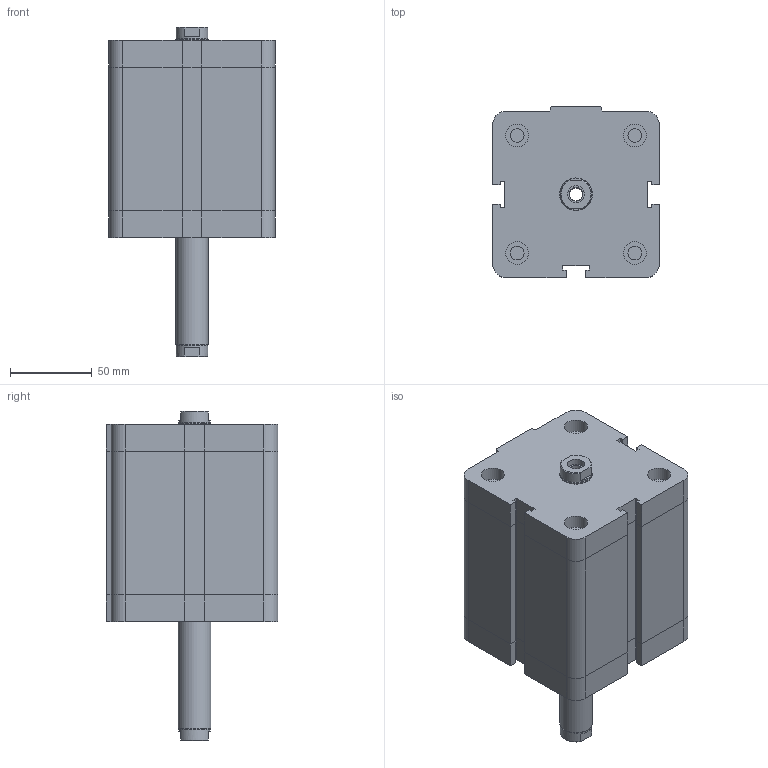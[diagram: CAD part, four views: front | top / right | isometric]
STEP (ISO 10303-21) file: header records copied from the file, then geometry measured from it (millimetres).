
FILE_DESCRIPTION((''),'2;1');
FILE_NAME('I:\Area Tecnica\Disegni\VARIE-3D\Componenti\EUROPE\15##_###_####_06_#\1561_80_0065_06_1.iam.stp','2009-04-20T15:07:02',(''),(''),'Autodesk Inventor 2009','Autodesk Inventor 2009','');
FILE_SCHEMA(('AUTOMOTIVE_DESIGN { 1 0 10303 214 1 1 1 1 }'));
Length unit declared in the file: millimetre
Products named in the file (3): 1561_80_0065_06_1; 1561_80_0065_03_1_C; 1561_80_0065_06_1_S
Assembly tree (2 placements, depth 2):
  1561_80_0065_06_1
    1561_80_0065_03_1_C
    1561_80_0065_06_1_S
Bounding box: 102 x 105 x 202 mm (x, y, z)
Volume: 1221951.5 mm3; surface area: 108759.9 mm2
Topology: 2 solids, 2 shells, 175 faces, 382 edges, 233 vertices
Faces by surface type: plane 114, bspline 30, cylinder 25, cone 6
Full cylindrical faces by diameter (mm): 8.376 x5, 10.3 x1, 14 x4, 19.5 x2, 20 x1
Entity records: 4805 total; most frequent: CARTESIAN_POINT 1042, DIRECTION 712, ORIENTED_EDGE 680, EDGE_CURVE 340, VECTOR 252, LINE 252, AXIS2_PLACEMENT_3D 230, EDGE_LOOP 230
